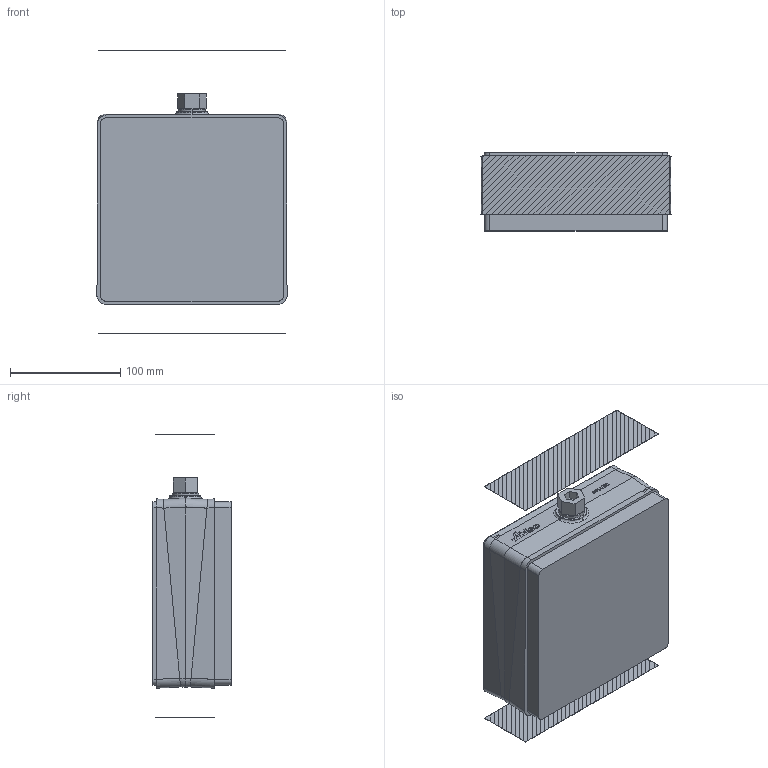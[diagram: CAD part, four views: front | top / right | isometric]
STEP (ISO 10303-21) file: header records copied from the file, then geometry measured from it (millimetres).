
FILE_DESCRIPTION (( 'STEP AP214' ), '1' );
FILE_NAME ('304-VRC-15-3.step', '2014-01-16T13:16:03', ( 'admin' ), ( '' ), 'SwSTEP 2.0', 'SolidWorks 2012', '' );
FILE_SCHEMA (( 'AUTOMOTIVE_DESIGN' ));
Length unit declared in the file: millimetre
Products named in the file (3): SS 002810_204-VRC; SS 000378_304-VRC-15-3; 304-VRC-15-3
Assembly tree (2 placements, depth 2):
  304-VRC-15-3
    SS 000378_304-VRC-15-3
    SS 002810_204-VRC
Bounding box: 172.24 x 70.76 x 257 mm (x, y, z)
Volume: 2042708.6 mm3; surface area: 144960.8 mm2
Topology: 3 solids, 4 shells, 461 faces, 1242 edges, 811 vertices
Faces by surface type: plane 353, bspline 58, cylinder 40, cone 8, torus 2
Entity records: 21843 total; most frequent: CARTESIAN_POINT 6141, ORIENTED_EDGE 2480, DIRECTION 1932, EDGE_CURVE 1240, VECTOR 1004, LINE 1004, VERTEX_POINT 811, EDGE_LOOP 487
